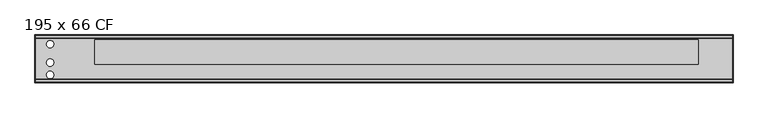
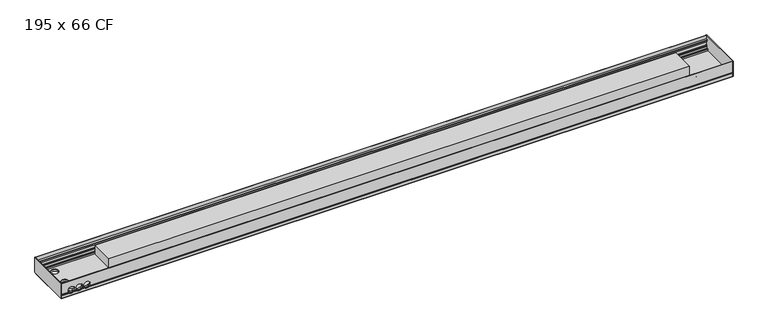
"""IFC4 building model written with IfcOpenShell, lengths in millimetres: proxy geometry, Mohlenhof_Внутрипольный конвектор_QSKM CF : 195 x 66 CF."""

from ifc_helpers import new_model, si_unit, point, frame, frame_2d, origin, place, context, project, spatial, polyline, circle_curve, ellipse_curve, trimmed, segment, composite_curve, outline, extrude, source, transform, mapped, element, save
from ifc_brep_helpers import plane_surface, revolved_surface, advanced_brep


def proxy_195_x_66_cf_03e56c4b(model_context):
    return source(origin(), model_context, "Body", "SolidModel", [
        advanced_brep(
        [(1423.0, -295.0, -48.5473602), (1423.0, -293.5, -49.2468216), (1423.0, -292.5, -49.2468216), (1423.0, -292.5, -46.0008038), (1423.0, -290.0, -46.0008038), (1423.0, -290.0, -56.5008038), (1423.0, -292.5, -56.5008038), (1423.0, -292.5, -53.2468216), (1423.0, -293.5, -53.2468216), (1423.0, -295.0, -53.9462831), (1423.0, -295.0, -66.5), (1423.0, -291.0, -66.5), (1423.0, -291.0, -65.2), (1423.0, -293.0, -65.2), (1423.0, -293.0, -62.5), (1423.0, -282.0, -62.5), (1423.0, -282.0, -54.9172677), (1423.0, -283.4172677, -53.5), (1423.0, -287.0, -53.5), (1423.0, -287.0, -45.91), (1423.0, -289.0, -43.91), (1423.0, -289.0, -39.5), (1423.0, -290.0, -39.5), (1423.0, -290.0, -43.5), (1423.0, -292.4956439, -43.5), (1423.0, -292.4956439, -23.0), (1423.0, -290.0, -23.0), (1423.0, -290.0, -27.0), (1423.0, -289.0, -27.0), (1423.0, -289.0, -17.0), (1423.0, -283.3956439, -17.0), (1423.0, -283.3956439, -15.0), (1423.0, -293.4, -15.0), (1423.0, -293.4, 0.0), (1423.0, -295.0, 0.0), (-1423.0, -295.0, -48.5473602), (-1423.0, -295.0, 0.0), (-1423.0, -293.4, 0.0), (-1423.0, -293.4, -15.0), (-1423.0, -283.3956439, -15.0), (-1423.0, -283.3956439, -17.0), (-1423.0, -289.0, -17.0), (-1423.0, -289.0, -27.0), (-1423.0, -290.0, -27.0), (-1423.0, -290.0, -23.0), (-1423.0, -292.4956439, -23.0), (-1423.0, -292.4956439, -43.5), (-1423.0, -290.0, -43.5), (-1423.0, -290.0, -39.5), (-1423.0, -289.0, -39.5), (-1423.0, -289.0, -43.91), (-1423.0, -287.0, -45.91), (-1423.0, -287.0, -53.5), (-1423.0, -283.4172677, -53.5), (-1423.0, -282.0, -54.9172677), (-1423.0, -282.0, -62.5), (-1423.0, -293.0, -62.5), (-1423.0, -293.0, -65.2), (-1423.0, -291.0, -65.2), (-1423.0, -291.0, -66.5), (-1423.0, -295.0, -66.5), (-1423.0, -295.0, -53.9462831), (-1423.0, -293.5, -53.2468216), (-1423.0, -292.5, -53.2468216), (-1423.0, -292.5, -56.5008038), (-1423.0, -290.0, -56.5008038), (-1423.0, -290.0, -46.0008038), (-1423.0, -292.5, -46.0008038), (-1423.0, -292.5, -49.2468216), (-1423.0, -293.5, -49.2468216), (-1303.7585985, -295.0, -48.5473602), (-1304.155283, -293.5, -49.2468216), (-1395.844717, -293.5, -49.2468216), (-1396.2414015, -295.0, -48.5473602), (-1363.2414015, -295.0, -48.5473602), (-1369.7585985, -295.0, -48.5473602), (-1370.155283, -293.5, -49.2468216), (-1362.844717, -293.5, -49.2468216), (-1330.2414015, -295.0, -48.5473602), (-1336.7585985, -295.0, -48.5473602), (-1337.155283, -293.5, -49.2468216), (-1329.844717, -293.5, -49.2468216), (-1304.155283, -292.5, -49.2468216), (-1395.844717, -292.5, -49.2468216), (-1370.155283, -292.5, -49.2468216), (-1362.844717, -292.5, -49.2468216), (-1337.155283, -292.5, -49.2468216), (-1329.844717, -292.5, -49.2468216), (-1302.6911648, -292.5, -46.0008038), (-1397.3088352, -292.5, -46.0008038), (-1368.6911648, -292.5, -46.0008038), (-1364.3088352, -292.5, -46.0008038), (-1335.6911648, -292.5, -46.0008038), (-1331.3088352, -292.5, -46.0008038), (-1302.6911648, -290.0, -46.0008038), (-1397.3088352, -290.0, -46.0008038), (-1368.6911648, -290.0, -46.0008038), (-1364.3088352, -290.0, -46.0008038), (-1335.6911648, -290.0, -46.0008038), (-1331.3088352, -290.0, -46.0008038), (-1392.328032, -292.5, -53.2468216), (-1373.671968, -292.5, -53.2468216), (-1359.328032, -292.5, -53.2468216), (-1340.671968, -292.5, -53.2468216), (-1326.328032, -292.5, -53.2468216), (-1307.671968, -292.5, -53.2468216), (-1307.671968, -293.5, -53.2468216), (-1392.328032, -293.5, -53.2468216), (-1373.671968, -293.5, -53.2468216), (-1359.328032, -293.5, -53.2468216), (-1340.671968, -293.5, -53.2468216), (-1326.328032, -293.5, -53.2468216), (-1308.6280208, -295.0, -53.9462831), (-1391.3719792, -295.0, -53.9462831), (-1374.6280208, -295.0, -53.9462831), (-1358.3719792, -295.0, -53.9462831), (-1341.6280208, -295.0, -53.9462831), (-1325.3719792, -295.0, -53.9462831), (-1389.7064841, -282.0, -54.9172677), (-1376.2935159, -282.0, -54.9172677), (-1356.7064841, -282.0, -54.9172677), (-1343.2935159, -282.0, -54.9172677), (-1323.7064841, -282.0, -54.9172677), (-1310.2935159, -282.0, -54.9172677), (-1308.0, -283.4172677, -53.5), (-1392.0, -283.4172677, -53.5), (-1374.0, -283.4172677, -53.5), (-1359.0, -283.4172677, -53.5), (-1341.0, -283.4172677, -53.5), (-1326.0, -283.4172677, -53.5), (-1308.0, -287.0, -53.5), (-1392.0, -287.0, -53.5), (-1374.0, -287.0, -53.5), (-1359.0, -287.0, -53.5), (-1341.0, -287.0, -53.5), (-1326.0, -287.0, -53.5), (-1302.6629187, -287.0, -45.91), (-1397.3370813, -287.0, -45.91), (-1368.6629187, -287.0, -45.91), (-1364.3370813, -287.0, -45.91), (-1335.6629187, -287.0, -45.91), (-1331.3370813, -287.0, -45.91), (-1302.1948691, -289.0, -43.91), (-1397.8051309, -289.0, -43.91), (-1368.1948691, -289.0, -43.91), (-1364.8051309, -289.0, -43.91), (-1335.1948691, -289.0, -43.91), (-1331.8051309, -289.0, -43.91), (-1302.0, -289.0, -41.5), (-1302.1339313, -289.0, -39.5), (-1397.8660687, -289.0, -39.5), (-1398.0, -289.0, -41.5), (-1368.0, -289.0, -41.5), (-1368.1339313, -289.0, -39.5), (-1364.8660687, -289.0, -39.5), (-1365.0, -289.0, -41.5), (-1335.0, -289.0, -41.5), (-1335.1339313, -289.0, -39.5), (-1331.8660687, -289.0, -39.5), (-1332.0, -289.0, -41.5), (-1302.1339313, -290.0, -39.5), (-1397.8660687, -290.0, -39.5), (-1368.1339313, -290.0, -39.5), (-1364.8660687, -290.0, -39.5), (-1335.1339313, -290.0, -39.5), (-1331.8660687, -290.0, -39.5), (-1302.0, -290.0, -41.5), (-1302.1339313, -290.0, -43.5), (-1397.8660687, -290.0, -43.5), (-1398.0, -290.0, -41.5), (-1368.0, -290.0, -41.5), (-1368.1339313, -290.0, -43.5), (-1364.8660687, -290.0, -43.5), (-1365.0, -290.0, -41.5), (-1335.0, -290.0, -41.5), (-1335.1339313, -290.0, -43.5), (-1331.8660687, -290.0, -43.5), (-1332.0, -290.0, -41.5), (-1302.1339313, -292.4956439, -43.5), (-1397.8660687, -292.4956439, -43.5), (-1368.1339313, -292.4956439, -43.5), (-1364.8660687, -292.4956439, -43.5), (-1335.1339313, -292.4956439, -43.5), (-1331.8660687, -292.4956439, -43.5), (-1302.0, -292.4956439, -41.5), (-1332.0, -292.4956439, -41.5), (-1335.0, -292.4956439, -41.5), (-1365.0, -292.4956439, -41.5), (-1368.0, -292.4956439, -41.5), (-1398.0, -292.4956439, -41.5), (-1386.8405729, -290.0, -27.0), (-1379.1594271, -290.0, -27.0), (-1353.8405729, -290.0, -27.0), (-1346.1594271, -290.0, -27.0), (-1320.8405729, -290.0, -27.0), (-1313.1594271, -290.0, -27.0), (-1313.1594271, -289.0, -27.0), (-1386.8405729, -289.0, -27.0), (-1379.1594271, -289.0, -27.0), (-1353.8405729, -289.0, -27.0), (-1346.1594271, -289.0, -27.0), (-1320.8405729, -289.0, -27.0), (-1398.0, -295.0, -41.5), (-1368.0, -295.0, -41.5), (-1365.0, -295.0, -41.5), (-1335.0, -295.0, -41.5), (-1332.0, -295.0, -41.5), (-1302.0, -295.0, -41.5)],
        [
            (0, 1),
            (1, 2),
            (2, 3),
            (3, 4),
            (4, 5),
            (5, 6),
            (6, 7),
            (7, 8),
            (8, 9),
            (9, 10),
            (10, 11),
            (11, 12),
            (12, 13),
            (13, 14),
            (14, 15),
            (15, 16),
            (16, 17),
            (17, 18),
            (18, 19),
            (19, 20),
            (20, 21),
            (21, 22),
            (22, 23),
            (23, 24),
            (24, 25),
            (25, 26),
            (26, 27),
            (27, 28),
            (28, 29),
            (29, 30),
            (30, 31),
            (31, 32),
            (32, 33),
            (33, 34),
            (34, 0),
            (35, 36),
            (36, 37),
            (37, 38),
            (38, 39),
            (39, 40),
            (40, 41),
            (41, 42),
            (42, 43),
            (43, 44),
            (44, 45),
            (45, 46),
            (46, 47),
            (47, 48),
            (48, 49),
            (49, 50),
            (50, 51),
            (51, 52),
            (52, 53),
            (53, 54),
            (54, 55),
            (55, 56),
            (56, 57),
            (57, 58),
            (58, 59),
            (59, 60),
            (60, 61),
            (61, 62),
            (62, 63),
            (63, 64),
            (64, 65),
            (65, 66),
            (66, 67),
            (67, 68),
            (68, 69),
            (69, 35),
            (0, 70),
            (70, 71, ellipse_curve(frame((-1317.0, -310.1131126, -41.5), z_axis=(0.0, 0.42261826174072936, 0.9063077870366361), x_axis=(0.0, -0.906307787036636, 0.4226182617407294)), 35.4930237, 15.0)),
            (71, 1),
            (69, 72),
            (72, 73, ellipse_curve(frame((-1383.0, -310.1131126, -41.5), z_axis=(0.0, 0.42261826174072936, 0.9063077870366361), x_axis=(0.0, -0.906307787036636, 0.4226182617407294)), 35.4930237, 15.0)),
            (73, 35),
            (74, 75),
            (75, 76, ellipse_curve(frame((-1383.0, -310.1131126, -41.5), z_axis=(0.0, 0.42261826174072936, 0.9063077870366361), x_axis=(0.0, -0.906307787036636, 0.4226182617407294)), 35.4930237, 15.0)),
            (76, 77),
            (77, 74, ellipse_curve(frame((-1350.0, -310.1131126, -41.5), z_axis=(0.0, 0.42261826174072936, 0.9063077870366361), x_axis=(0.0, -0.906307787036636, 0.4226182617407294)), 35.4930237, 15.0)),
            (78, 79),
            (79, 80, ellipse_curve(frame((-1350.0, -310.1131126, -41.5), z_axis=(0.0, 0.42261826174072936, 0.9063077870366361), x_axis=(0.0, -0.906307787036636, 0.4226182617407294)), 35.4930237, 15.0)),
            (80, 81),
            (81, 78, ellipse_curve(frame((-1317.0, -310.1131126, -41.5), z_axis=(0.0, 0.42261826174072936, 0.9063077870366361), x_axis=(0.0, -0.906307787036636, 0.4226182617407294)), 35.4930237, 15.0)),
            (71, 82),
            (82, 2),
            (68, 83),
            (83, 72),
            (76, 84),
            (84, 85),
            (85, 77),
            (80, 86),
            (86, 87),
            (87, 81),
            (82, 88, circle_curve(frame((-1317.0, -292.5, -41.5), z_axis=(0.0, -1.0, 0.0), x_axis=(1.0, 0.0, 0.0)), 15.0)),
            (88, 3),
            (67, 89),
            (89, 83, circle_curve(frame((-1383.0, -292.5, -41.5), z_axis=(0.0, -1.0, 0.0), x_axis=(1.0, 0.0, 0.0)), 15.0)),
            (84, 90, circle_curve(frame((-1383.0, -292.5, -41.5), z_axis=(0.0, -1.0, 0.0), x_axis=(1.0, 0.0, 0.0)), 15.0)),
            (90, 91),
            (91, 85, circle_curve(frame((-1350.0, -292.5, -41.5), z_axis=(0.0, -1.0, 0.0), x_axis=(1.0, 0.0, 0.0)), 15.0)),
            (86, 92, circle_curve(frame((-1350.0, -292.5, -41.5), z_axis=(0.0, -1.0, 0.0), x_axis=(1.0, 0.0, 0.0)), 15.0)),
            (92, 93),
            (93, 87, circle_curve(frame((-1317.0, -292.5, -41.5), z_axis=(0.0, -1.0, 0.0), x_axis=(1.0, 0.0, 0.0)), 15.0)),
            (88, 94),
            (94, 4),
            (66, 95),
            (95, 89),
            (90, 96),
            (96, 97),
            (97, 91),
            (92, 98),
            (98, 99),
            (99, 93),
            (94, 99, circle_curve(frame((-1317.0, -290.0, -41.5), z_axis=(0.0, 1.0, 0.0), x_axis=(1.0, 0.0, 0.0)), 15.0)),
            (98, 97, circle_curve(frame((-1350.0, -290.0, -41.5), z_axis=(0.0, 1.0, 0.0), x_axis=(1.0, 0.0, 0.0)), 15.0)),
            (96, 95, circle_curve(frame((-1383.0, -290.0, -41.5), z_axis=(0.0, 1.0, 0.0), x_axis=(1.0, 0.0, 0.0)), 15.0)),
            (65, 5),
            (64, 6),
            (63, 100),
            (100, 101, circle_curve(frame((-1383.0, -292.5, -41.5), z_axis=(0.0, -1.0, 0.0), x_axis=(1.0, 0.0, 0.0)), 15.0)),
            (101, 102),
            (102, 103, circle_curve(frame((-1350.0, -292.5, -41.5), z_axis=(0.0, -1.0, 0.0), x_axis=(1.0, 0.0, 0.0)), 15.0)),
            (103, 104),
            (104, 105, circle_curve(frame((-1317.0, -292.5, -41.5), z_axis=(0.0, -1.0, 0.0), x_axis=(1.0, 0.0, 0.0)), 15.0)),
            (105, 7),
            (105, 106),
            (106, 8),
            (62, 107),
            (107, 100),
            (101, 108),
            (108, 109),
            (109, 102),
            (103, 110),
            (110, 111),
            (111, 104),
            (106, 112, ellipse_curve(frame((-1317.0, -268.3088597, -41.5), z_axis=(0.0, 0.4226182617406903, -0.9063077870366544), x_axis=(0.0, -0.9063077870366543, -0.42261826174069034)), 35.4930237, 15.0)),
            (112, 9),
            (61, 113),
            (113, 107, ellipse_curve(frame((-1383.0, -268.3088597, -41.5), z_axis=(0.0, 0.4226182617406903, -0.9063077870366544), x_axis=(0.0, -0.9063077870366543, -0.42261826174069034)), 35.4930237, 15.0)),
            (108, 114, ellipse_curve(frame((-1383.0, -268.3088597, -41.5), z_axis=(0.0, 0.4226182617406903, -0.9063077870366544), x_axis=(0.0, -0.9063077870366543, -0.42261826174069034)), 35.4930237, 15.0)),
            (114, 115),
            (115, 109, ellipse_curve(frame((-1350.0, -268.3088597, -41.5), z_axis=(0.0, 0.4226182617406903, -0.9063077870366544), x_axis=(0.0, -0.9063077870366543, -0.42261826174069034)), 35.4930237, 15.0)),
            (110, 116, ellipse_curve(frame((-1350.0, -268.3088597, -41.5), z_axis=(0.0, 0.4226182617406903, -0.9063077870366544), x_axis=(0.0, -0.9063077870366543, -0.42261826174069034)), 35.4930237, 15.0)),
            (116, 117),
            (117, 111, ellipse_curve(frame((-1317.0, -268.3088597, -41.5), z_axis=(0.0, 0.4226182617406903, -0.9063077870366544), x_axis=(0.0, -0.9063077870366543, -0.42261826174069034)), 35.4930237, 15.0)),
            (112, 117, circle_curve(frame((-1317.0, -295.0, -41.5), z_axis=(0.0, 1.0, 0.0), x_axis=(1.0, 0.0, 0.0)), 15.0)),
            (116, 115, circle_curve(frame((-1350.0, -295.0, -41.5), z_axis=(0.0, 1.0, 0.0), x_axis=(1.0, 0.0, 0.0)), 15.0)),
            (114, 113, circle_curve(frame((-1383.0, -295.0, -41.5), z_axis=(0.0, 1.0, 0.0), x_axis=(1.0, 0.0, 0.0)), 15.0)),
            (60, 10),
            (59, 11),
            (58, 12),
            (57, 13),
            (56, 14),
            (55, 15),
            (54, 118),
            (118, 119, circle_curve(frame((-1383.0, -282.0, -41.5), z_axis=(0.0, -1.0, 0.0), x_axis=(1.0, 0.0, 0.0)), 15.0)),
            (119, 120),
            (120, 121, circle_curve(frame((-1350.0, -282.0, -41.5), z_axis=(0.0, -1.0, 0.0), x_axis=(1.0, 0.0, 0.0)), 15.0)),
            (121, 122),
            (122, 123, circle_curve(frame((-1317.0, -282.0, -41.5), z_axis=(0.0, -1.0, 0.0), x_axis=(1.0, 0.0, 0.0)), 15.0)),
            (123, 16),
            (123, 124, ellipse_curve(frame((-1317.0, -295.4172677, -41.5), z_axis=(0.0, -0.7071067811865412, -0.7071067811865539), x_axis=(0.0, -0.7071067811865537, 0.7071067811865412)), 21.2132034, 15.0)),
            (124, 17),
            (53, 125),
            (125, 118, ellipse_curve(frame((-1383.0, -295.4172677, -41.5), z_axis=(0.0, -0.7071067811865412, -0.7071067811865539), x_axis=(0.0, -0.7071067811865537, 0.7071067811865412)), 21.2132034, 15.0)),
            (119, 126, ellipse_curve(frame((-1383.0, -295.4172677, -41.5), z_axis=(0.0, -0.7071067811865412, -0.7071067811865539), x_axis=(0.0, -0.7071067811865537, 0.7071067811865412)), 21.2132034, 15.0)),
            (126, 127),
            (127, 120, ellipse_curve(frame((-1350.0, -295.4172677, -41.5), z_axis=(0.0, -0.7071067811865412, -0.7071067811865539), x_axis=(0.0, -0.7071067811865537, 0.7071067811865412)), 21.2132034, 15.0)),
            (121, 128, ellipse_curve(frame((-1350.0, -295.4172677, -41.5), z_axis=(0.0, -0.7071067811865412, -0.7071067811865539), x_axis=(0.0, -0.7071067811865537, 0.7071067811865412)), 21.2132034, 15.0)),
            (128, 129),
            (129, 122, ellipse_curve(frame((-1317.0, -295.4172677, -41.5), z_axis=(0.0, -0.7071067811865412, -0.7071067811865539), x_axis=(0.0, -0.7071067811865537, 0.7071067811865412)), 21.2132034, 15.0)),
            (124, 130),
            (130, 18),
            (52, 131),
            (131, 125),
            (126, 132),
            (132, 133),
            (133, 127),
            (128, 134),
            (134, 135),
            (135, 129),
            (130, 136, circle_curve(frame((-1317.0, -287.0, -41.5), z_axis=(0.0, -1.0, 0.0), x_axis=(1.0, 0.0, 0.0)), 15.0)),
            (136, 19),
            (51, 137),
            (137, 131, circle_curve(frame((-1383.0, -287.0, -41.5), z_axis=(0.0, -1.0, 0.0), x_axis=(1.0, 0.0, 0.0)), 15.0)),
            (132, 138, circle_curve(frame((-1383.0, -287.0, -41.5), z_axis=(0.0, -1.0, 0.0), x_axis=(1.0, 0.0, 0.0)), 15.0)),
            (138, 139),
            (139, 133, circle_curve(frame((-1350.0, -287.0, -41.5), z_axis=(0.0, -1.0, 0.0), x_axis=(1.0, 0.0, 0.0)), 15.0)),
            (134, 140, circle_curve(frame((-1350.0, -287.0, -41.5), z_axis=(0.0, -1.0, 0.0), x_axis=(1.0, 0.0, 0.0)), 15.0)),
            (140, 141),
            (141, 135, circle_curve(frame((-1317.0, -287.0, -41.5), z_axis=(0.0, -1.0, 0.0), x_axis=(1.0, 0.0, 0.0)), 15.0)),
            (136, 142, ellipse_curve(frame((-1317.0, -291.41, -41.5), z_axis=(0.0, -0.7071067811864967, -0.7071067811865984), x_axis=(0.0, -0.7071067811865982, 0.7071067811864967)), 21.2132034, 15.0)),
            (142, 20),
            (50, 143),
            (143, 137, ellipse_curve(frame((-1383.0, -291.41, -41.5), z_axis=(0.0, -0.7071067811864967, -0.7071067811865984), x_axis=(0.0, -0.7071067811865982, 0.7071067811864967)), 21.2132034, 15.0)),
            (138, 144, ellipse_curve(frame((-1383.0, -291.41, -41.5), z_axis=(0.0, -0.7071067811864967, -0.7071067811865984), x_axis=(0.0, -0.7071067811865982, 0.7071067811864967)), 21.2132034, 15.0)),
            (144, 145),
            (145, 139, ellipse_curve(frame((-1350.0, -291.41, -41.5), z_axis=(0.0, -0.7071067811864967, -0.7071067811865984), x_axis=(0.0, -0.7071067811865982, 0.7071067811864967)), 21.2132034, 15.0)),
            (140, 146, ellipse_curve(frame((-1350.0, -291.41, -41.5), z_axis=(0.0, -0.7071067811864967, -0.7071067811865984), x_axis=(0.0, -0.7071067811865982, 0.7071067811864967)), 21.2132034, 15.0)),
            (146, 147),
            (147, 141, ellipse_curve(frame((-1317.0, -291.41, -41.5), z_axis=(0.0, -0.7071067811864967, -0.7071067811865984), x_axis=(0.0, -0.7071067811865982, 0.7071067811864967)), 21.2132034, 15.0)),
            (142, 148, circle_curve(frame((-1317.0, -289.0, -41.5), z_axis=(0.0, -1.0, 0.0), x_axis=(1.0, 0.0, 0.0)), 15.0)),
            (148, 149, circle_curve(frame((-1317.0, -289.0, -41.5), z_axis=(0.0, -1.0, 0.0), x_axis=(1.0, 0.0, 0.0)), 15.0)),
            (149, 21),
            (49, 150),
            (150, 151, circle_curve(frame((-1383.0, -289.0, -41.5), z_axis=(0.0, -1.0, 0.0), x_axis=(1.0, 0.0, 0.0)), 15.0)),
            (151, 143, circle_curve(frame((-1383.0, -289.0, -41.5), z_axis=(0.0, -1.0, 0.0), x_axis=(1.0, 0.0, 0.0)), 15.0)),
            (144, 152, circle_curve(frame((-1383.0, -289.0, -41.5), z_axis=(0.0, -1.0, 0.0), x_axis=(1.0, 0.0, 0.0)), 15.0)),
            (152, 153, circle_curve(frame((-1383.0, -289.0, -41.5), z_axis=(0.0, -1.0, 0.0), x_axis=(1.0, 0.0, 0.0)), 15.0)),
            (153, 154),
            (154, 155, circle_curve(frame((-1350.0, -289.0, -41.5), z_axis=(0.0, -1.0, 0.0), x_axis=(1.0, 0.0, 0.0)), 15.0)),
            (155, 145, circle_curve(frame((-1350.0, -289.0, -41.5), z_axis=(0.0, -1.0, 0.0), x_axis=(1.0, 0.0, 0.0)), 15.0)),
            (146, 156, circle_curve(frame((-1350.0, -289.0, -41.5), z_axis=(0.0, -1.0, 0.0), x_axis=(1.0, 0.0, 0.0)), 15.0)),
            (156, 157, circle_curve(frame((-1350.0, -289.0, -41.5), z_axis=(0.0, -1.0, 0.0), x_axis=(1.0, 0.0, 0.0)), 15.0)),
            (157, 158),
            (158, 159, circle_curve(frame((-1317.0, -289.0, -41.5), z_axis=(0.0, -1.0, 0.0), x_axis=(1.0, 0.0, 0.0)), 15.0)),
            (159, 147, circle_curve(frame((-1317.0, -289.0, -41.5), z_axis=(0.0, -1.0, 0.0), x_axis=(1.0, 0.0, 0.0)), 15.0)),
            (149, 160),
            (160, 22),
            (48, 161),
            (161, 150),
            (153, 162),
            (162, 163),
            (163, 154),
            (157, 164),
            (164, 165),
            (165, 158),
            (160, 166, circle_curve(frame((-1317.0, -290.0, -41.5), z_axis=(0.0, 1.0, 0.0), x_axis=(1.0, 0.0, 0.0)), 15.0)),
            (166, 167, circle_curve(frame((-1317.0, -290.0, -41.5), z_axis=(0.0, 1.0, 0.0), x_axis=(1.0, 0.0, 0.0)), 15.0)),
            (167, 23),
            (47, 168),
            (168, 169, circle_curve(frame((-1383.0, -290.0, -41.5), z_axis=(0.0, 1.0, 0.0), x_axis=(1.0, 0.0, 0.0)), 15.0)),
            (169, 161, circle_curve(frame((-1383.0, -290.0, -41.5), z_axis=(0.0, 1.0, 0.0), x_axis=(1.0, 0.0, 0.0)), 15.0)),
            (162, 170, circle_curve(frame((-1383.0, -290.0, -41.5), z_axis=(0.0, 1.0, 0.0), x_axis=(1.0, 0.0, 0.0)), 15.0)),
            (170, 171, circle_curve(frame((-1383.0, -290.0, -41.5), z_axis=(0.0, 1.0, 0.0), x_axis=(1.0, 0.0, 0.0)), 15.0)),
            (171, 172),
            (172, 173, circle_curve(frame((-1350.0, -290.0, -41.5), z_axis=(0.0, 1.0, 0.0), x_axis=(1.0, 0.0, 0.0)), 15.0)),
            (173, 163, circle_curve(frame((-1350.0, -290.0, -41.5), z_axis=(0.0, 1.0, 0.0), x_axis=(1.0, 0.0, 0.0)), 15.0)),
            (164, 174, circle_curve(frame((-1350.0, -290.0, -41.5), z_axis=(0.0, 1.0, 0.0), x_axis=(1.0, 0.0, 0.0)), 15.0)),
            (174, 175, circle_curve(frame((-1350.0, -290.0, -41.5), z_axis=(0.0, 1.0, 0.0), x_axis=(1.0, 0.0, 0.0)), 15.0)),
            (175, 176),
            (176, 177, circle_curve(frame((-1317.0, -290.0, -41.5), z_axis=(0.0, 1.0, 0.0), x_axis=(1.0, 0.0, 0.0)), 15.0)),
            (177, 165, circle_curve(frame((-1317.0, -290.0, -41.5), z_axis=(0.0, 1.0, 0.0), x_axis=(1.0, 0.0, 0.0)), 15.0)),
            (167, 178),
            (178, 24),
            (46, 179),
            (179, 168),
            (171, 180),
            (180, 181),
            (181, 172),
            (175, 182),
            (182, 183),
            (183, 176),
            (178, 184, circle_curve(frame((-1317.0, -292.4956439, -41.5), z_axis=(0.0, -1.0, 0.0), x_axis=(1.0, 0.0, 0.0)), 15.0)),
            (184, 185, circle_curve(frame((-1317.0, -292.4956439, -41.5), z_axis=(0.0, -1.0, 0.0), x_axis=(1.0, 0.0, 0.0)), 15.0)),
            (185, 183, circle_curve(frame((-1317.0, -292.4956439, -41.5), z_axis=(0.0, -1.0, 0.0), x_axis=(1.0, 0.0, 0.0)), 15.0)),
            (182, 186, circle_curve(frame((-1350.0, -292.4956439, -41.5), z_axis=(0.0, -1.0, 0.0), x_axis=(1.0, 0.0, 0.0)), 15.0)),
            (186, 187, circle_curve(frame((-1350.0, -292.4956439, -41.5), z_axis=(0.0, -1.0, 0.0), x_axis=(1.0, 0.0, 0.0)), 15.0)),
            (187, 181, circle_curve(frame((-1350.0, -292.4956439, -41.5), z_axis=(0.0, -1.0, 0.0), x_axis=(1.0, 0.0, 0.0)), 15.0)),
            (180, 188, circle_curve(frame((-1383.0, -292.4956439, -41.5), z_axis=(0.0, -1.0, 0.0), x_axis=(1.0, 0.0, 0.0)), 15.0)),
            (188, 189, circle_curve(frame((-1383.0, -292.4956439, -41.5), z_axis=(0.0, -1.0, 0.0), x_axis=(1.0, 0.0, 0.0)), 15.0)),
            (189, 179, circle_curve(frame((-1383.0, -292.4956439, -41.5), z_axis=(0.0, -1.0, 0.0), x_axis=(1.0, 0.0, 0.0)), 15.0)),
            (45, 25),
            (44, 26),
            (43, 190),
            (190, 191, circle_curve(frame((-1383.0, -290.0, -41.5), z_axis=(0.0, 1.0, 0.0), x_axis=(1.0, 0.0, 0.0)), 15.0)),
            (191, 192),
            (192, 193, circle_curve(frame((-1350.0, -290.0, -41.5), z_axis=(0.0, 1.0, 0.0), x_axis=(1.0, 0.0, 0.0)), 15.0)),
            (193, 194),
            (194, 195, circle_curve(frame((-1317.0, -290.0, -41.5), z_axis=(0.0, 1.0, 0.0), x_axis=(1.0, 0.0, 0.0)), 15.0)),
            (195, 27),
            (195, 196),
            (196, 28),
            (42, 197),
            (197, 190),
            (191, 198),
            (198, 199),
            (199, 192),
            (193, 200),
            (200, 201),
            (201, 194),
            (196, 201, circle_curve(frame((-1317.0, -289.0, -41.5), z_axis=(0.0, -1.0, 0.0), x_axis=(1.0, 0.0, 0.0)), 15.0)),
            (200, 199, circle_curve(frame((-1350.0, -289.0, -41.5), z_axis=(0.0, -1.0, 0.0), x_axis=(1.0, 0.0, 0.0)), 15.0)),
            (198, 197, circle_curve(frame((-1383.0, -289.0, -41.5), z_axis=(0.0, -1.0, 0.0), x_axis=(1.0, 0.0, 0.0)), 15.0)),
            (41, 29),
            (40, 30),
            (39, 31),
            (38, 32),
            (37, 33),
            (36, 34),
            (73, 202, circle_curve(frame((-1383.0, -295.0, -41.5), z_axis=(0.0, 1.0, 0.0), x_axis=(1.0, 0.0, 0.0)), 15.0)),
            (202, 203, circle_curve(frame((-1383.0, -295.0, -41.5), z_axis=(0.0, 1.0, 0.0), x_axis=(1.0, 0.0, 0.0)), 15.0)),
            (203, 75, circle_curve(frame((-1383.0, -295.0, -41.5), z_axis=(0.0, 1.0, 0.0), x_axis=(1.0, 0.0, 0.0)), 15.0)),
            (74, 204, circle_curve(frame((-1350.0, -295.0, -41.5), z_axis=(0.0, 1.0, 0.0), x_axis=(1.0, 0.0, 0.0)), 15.0)),
            (204, 205, circle_curve(frame((-1350.0, -295.0, -41.5), z_axis=(0.0, 1.0, 0.0), x_axis=(1.0, 0.0, 0.0)), 15.0)),
            (205, 79, circle_curve(frame((-1350.0, -295.0, -41.5), z_axis=(0.0, 1.0, 0.0), x_axis=(1.0, 0.0, 0.0)), 15.0)),
            (78, 206, circle_curve(frame((-1317.0, -295.0, -41.5), z_axis=(0.0, 1.0, 0.0), x_axis=(1.0, 0.0, 0.0)), 15.0)),
            (206, 207, circle_curve(frame((-1317.0, -295.0, -41.5), z_axis=(0.0, 1.0, 0.0), x_axis=(1.0, 0.0, 0.0)), 15.0)),
            (207, 70, circle_curve(frame((-1317.0, -295.0, -41.5), z_axis=(0.0, 1.0, 0.0), x_axis=(1.0, 0.0, 0.0)), 15.0)),
            (151, 169),
            (189, 202),
            (203, 188),
            (170, 152),
            (155, 173),
            (187, 204),
            (205, 186),
            (174, 156),
            (159, 177),
            (185, 206),
            (207, 184),
            (166, 148),
        ],
        [
            plane_surface(frame((1423.0, -293.0, -62.5), z_axis=(1.0, 0.0, 0.0), x_axis=(0.0, 0.0, 1.0))),
            plane_surface(frame((-1423.0, -293.0, -62.5), z_axis=(-1.0, 0.0, 0.0), x_axis=(0.0, 0.0, 1.0))),
            plane_surface(frame((1423.0, -295.0, -48.5473602), z_axis=(0.0, -0.42261826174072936, -0.9063077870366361), x_axis=(-1.0, 0.0, 0.0))),
            plane_surface(frame((1423.0, -293.5, -49.2468216), z_axis=(0.0, 0.0, -1.0), x_axis=(-1.0, 0.0, 0.0))),
            plane_surface(frame((1423.0, -292.5, -49.2468216), z_axis=(0.0, 1.0, 0.0), x_axis=(-1.0, 0.0, 0.0))),
            plane_surface(frame((1423.0, -292.5, -46.0008038), z_axis=(0.0, 0.0, -1.0), x_axis=(-1.0, 0.0, 0.0))),
            plane_surface(frame((1423.0, -290.0, -46.0008038), z_axis=(0.0, -1.0, 0.0), x_axis=(-1.0, 0.0, 0.0))),
            plane_surface(frame((1423.0, -290.0, -56.5008038), z_axis=(0.0, 0.0, 1.0), x_axis=(-1.0, 0.0, 0.0))),
            plane_surface(frame((1423.0, -292.5, -56.5008038), z_axis=(0.0, 1.0, 0.0), x_axis=(-1.0, 0.0, 0.0))),
            plane_surface(frame((1423.0, -292.5, -53.2468216), z_axis=(0.0, 0.0, 1.0), x_axis=(-1.0, 0.0, 0.0))),
            plane_surface(frame((1423.0, -293.5, -53.2468216), z_axis=(0.0, -0.4226182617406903, 0.9063077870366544), x_axis=(-1.0, 0.0, 0.0))),
            plane_surface(frame((1423.0, -295.0, -53.9462831), z_axis=(0.0, -1.0, 0.0), x_axis=(-1.0, 0.0, 0.0))),
            plane_surface(frame((1423.0, -295.0, -66.5), z_axis=(0.0, 0.0, -1.0), x_axis=(-1.0, 0.0, 0.0))),
            plane_surface(frame((1423.0, -291.0, -66.5), z_axis=(0.0, 1.0, 0.0), x_axis=(-1.0, 0.0, 0.0))),
            plane_surface(frame((1423.0, -291.0, -65.2), z_axis=(0.0, 0.0, 1.0), x_axis=(-1.0, 0.0, 0.0))),
            plane_surface(frame((1423.0, -293.0, -65.2), z_axis=(0.0, 1.0, 0.0), x_axis=(-1.0, 0.0, 0.0))),
            plane_surface(frame((1423.0, -293.0, -62.5), z_axis=(0.0, 0.0, -1.0), x_axis=(-1.0, 0.0, 0.0))),
            plane_surface(frame((1423.0, -282.0, -62.5), z_axis=(0.0, 1.0, 0.0), x_axis=(-1.0, 0.0, 0.0))),
            plane_surface(frame((1423.0, -282.0, -54.9172677), z_axis=(0.0, 0.7071067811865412, 0.7071067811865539), x_axis=(-1.0, 0.0, 0.0))),
            plane_surface(frame((1423.0, -283.4172677, -53.5), z_axis=(0.0, 0.0, 1.0), x_axis=(-1.0, 0.0, 0.0))),
            plane_surface(frame((1423.0, -287.0, -53.5), z_axis=(0.0, 1.0, 0.0), x_axis=(-1.0, 0.0, 0.0))),
            plane_surface(frame((1423.0, -287.0, -45.91), z_axis=(0.0, 0.7071067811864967, 0.7071067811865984), x_axis=(-1.0, 0.0, 0.0))),
            plane_surface(frame((1423.0, -289.0, -43.91), z_axis=(0.0, 1.0, 0.0), x_axis=(-1.0, 0.0, 0.0))),
            plane_surface(frame((1423.0, -289.0, -39.5), z_axis=(0.0, 0.0, 1.0), x_axis=(-1.0, 0.0, 0.0))),
            plane_surface(frame((1423.0, -290.0, -39.5), z_axis=(0.0, -1.0, 0.0), x_axis=(-1.0, 0.0, 0.0))),
            plane_surface(frame((1423.0, -290.0, -43.5), z_axis=(0.0, 0.0, 1.0), x_axis=(-1.0, 0.0, 0.0))),
            plane_surface(frame((1423.0, -292.4956439, -43.5), z_axis=(0.0, 1.0, 0.0), x_axis=(-1.0, 0.0, 0.0))),
            plane_surface(frame((1423.0, -292.4956439, -23.0), z_axis=(0.0, 0.0, -1.0), x_axis=(-1.0, 0.0, 0.0))),
            plane_surface(frame((1423.0, -290.0, -23.0), z_axis=(0.0, -1.0, 0.0), x_axis=(-1.0, 0.0, 0.0))),
            plane_surface(frame((1423.0, -290.0, -27.0), z_axis=(0.0, 0.0, -1.0), x_axis=(-1.0, 0.0, 0.0))),
            plane_surface(frame((1423.0, -289.0, -27.0), z_axis=(0.0, 1.0, 0.0), x_axis=(-1.0, 0.0, 0.0))),
            plane_surface(frame((1423.0, -289.0, -17.0), z_axis=(0.0, 0.0, -1.0), x_axis=(-1.0, 0.0, 0.0))),
            plane_surface(frame((1423.0, -283.3956439, -17.0), z_axis=(0.0, 1.0, 0.0), x_axis=(-1.0, 0.0, 0.0))),
            plane_surface(frame((1423.0, -283.3956439, -15.0), z_axis=(0.0, 0.0, 1.0), x_axis=(-1.0, 0.0, 0.0))),
            plane_surface(frame((1423.0, -293.4, -15.0), z_axis=(0.0, 1.0, 0.0), x_axis=(-1.0, 0.0, 0.0))),
            plane_surface(frame((1423.0, -293.4, 0.0), z_axis=(0.0, 0.0, 1.0), x_axis=(-1.0, 0.0, 0.0))),
            plane_surface(frame((1423.0, -295.0, 0.0), z_axis=(0.0, -1.0, 0.0), x_axis=(-1.0, 0.0, 0.0))),
            revolved_surface(polyline([(-1368.0, -300.47646346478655, -41.5), (-1368.0, -236.1412559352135, -41.5)]), (-1383.0, -263.0, -41.5), (0.0, -1.0, 0.0)),
            revolved_surface(polyline([(-1368.0, -342.2807163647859, -41.5), (-1368.0, -276.41000002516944, -41.5)]), (-1383.0, -263.0, -41.5), (0.0, -1.0, 0.0)),
            revolved_surface(polyline([(-1368.0, -290.0, -41.5), (-1368.0, -289.0, -41.5)]), (-1383.0, -263.0, -41.5), (0.0, -1.0, 0.0)),
            revolved_surface(polyline([(-1368.0, -295.0, -41.5), (-1368.0, -292.4956439, -41.5)]), (-1383.0, -263.0, -41.5), (0.0, -1.0, 0.0)),
            revolved_surface(polyline([(-1335.0, -300.47646346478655, -41.5), (-1335.0, -236.1412559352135, -41.5)]), (-1350.0, 0.0, -41.5), (0.0, -1.0, 0.0)),
            revolved_surface(polyline([(-1335.0, -342.2807163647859, -41.5), (-1335.0, -276.41000002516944, -41.5)]), (-1350.0, 0.0, -41.5), (0.0, -1.0, 0.0)),
            revolved_surface(polyline([(-1335.0, -290.0, -41.5), (-1335.0, -289.0, -41.5)]), (-1350.0, 0.0, -41.5), (0.0, -1.0, 0.0)),
            revolved_surface(polyline([(-1335.0, -295.0, -41.5), (-1335.0, -292.4956439, -41.5)]), (-1350.0, 0.0, -41.5), (0.0, -1.0, 0.0)),
            revolved_surface(polyline([(-1302.0, -300.47646346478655, -41.5), (-1302.0, -236.1412559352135, -41.5)]), (-1317.0, 0.0, -41.5), (0.0, -1.0, 0.0)),
            revolved_surface(polyline([(-1302.0, -342.2807163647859, -41.5), (-1302.0, -276.41000002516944, -41.5)]), (-1317.0, 0.0, -41.5), (0.0, -1.0, 0.0)),
            revolved_surface(polyline([(-1302.0, -290.0, -41.5), (-1302.0, -289.0, -41.5)]), (-1317.0, 0.0, -41.5), (0.0, -1.0, 0.0)),
            revolved_surface(polyline([(-1302.0, -295.0, -41.5), (-1302.0, -292.4956439, -41.5)]), (-1317.0, 0.0, -41.5), (0.0, -1.0, 0.0)),
        ],
        [
            (0, [[1, 2, 3, 4, 5, 6, 7, 8, 9, 10, 11, 12, 13, 14, 15, 16, 17, 18, 19, 20, 21, 22, 23, 24, 25, 26, 27, 28, 29, 30, 31, 32, 33, 34, 35]]),
            (1, [[36, 37, 38, 39, 40, 41, 42, 43, 44, 45, 46, 47, 48, 49, 50, 51, 52, 53, 54, 55, 56, 57, 58, 59, 60, 61, 62, 63, 64, 65, 66, 67, 68, 69, 70]]),
            (2, [[-1, 71, 72, 73]]),
            (2, [[-70, 74, 75, 76]]),
            (2, [[77, 78, 79, 80]]),
            (2, [[81, 82, 83, 84]]),
            (3, [[-2, -73, 85, 86]]),
            (3, [[-69, 87, 88, -74]]),
            (3, [[-79, 89, 90, 91]]),
            (3, [[-83, 92, 93, 94]]),
            (4, [[-3, -86, 95, 96]]),
            (4, [[-68, 97, 98, -87]]),
            (4, [[-90, 99, 100, 101]]),
            (4, [[-93, 102, 103, 104]]),
            (5, [[-4, -96, 105, 106]]),
            (5, [[-67, 107, 108, -97]]),
            (5, [[-100, 109, 110, 111]]),
            (5, [[-103, 112, 113, 114]]),
            (6, [[-5, -106, 115, -113, 116, -110, 117, -107, -66, 118]]),
            (7, [[-6, -118, -65, 119]]),
            (8, [[-7, -119, -64, 120, 121, 122, 123, 124, 125, 126]]),
            (9, [[-8, -126, 127, 128]]),
            (9, [[-63, 129, 130, -120]]),
            (9, [[-122, 131, 132, 133]]),
            (9, [[-124, 134, 135, 136]]),
            (10, [[-9, -128, 137, 138]]),
            (10, [[-62, 139, 140, -129]]),
            (10, [[-132, 141, 142, 143]]),
            (10, [[-135, 144, 145, 146]]),
            (11, [[-10, -138, 147, -145, 148, -142, 149, -139, -61, 150]]),
            (12, [[-11, -150, -60, 151]]),
            (13, [[-12, -151, -59, 152]]),
            (14, [[-13, -152, -58, 153]]),
            (15, [[-14, -153, -57, 154]]),
            (16, [[-15, -154, -56, 155]]),
            (17, [[-16, -155, -55, 156, 157, 158, 159, 160, 161, 162]]),
            (18, [[-17, -162, 163, 164]]),
            (18, [[-54, 165, 166, -156]]),
            (18, [[-158, 167, 168, 169]]),
            (18, [[-160, 170, 171, 172]]),
            (19, [[-18, -164, 173, 174]]),
            (19, [[-53, 175, 176, -165]]),
            (19, [[-168, 177, 178, 179]]),
            (19, [[-171, 180, 181, 182]]),
            (20, [[-19, -174, 183, 184]]),
            (20, [[-52, 185, 186, -175]]),
            (20, [[-178, 187, 188, 189]]),
            (20, [[-181, 190, 191, 192]]),
            (21, [[-20, -184, 193, 194]]),
            (21, [[-51, 195, 196, -185]]),
            (21, [[-188, 197, 198, 199]]),
            (21, [[-191, 200, 201, 202]]),
            (22, [[-21, -194, 203, 204, 205]]),
            (22, [[-50, 206, 207, 208, -195]]),
            (22, [[-198, 209, 210, 211, 212, 213]]),
            (22, [[-201, 214, 215, 216, 217, 218]]),
            (23, [[-22, -205, 219, 220]]),
            (23, [[-49, 221, 222, -206]]),
            (23, [[-211, 223, 224, 225]]),
            (23, [[-216, 226, 227, 228]]),
            (24, [[-23, -220, 229, 230, 231]]),
            (24, [[-48, 232, 233, 234, -221]]),
            (24, [[-224, 235, 236, 237, 238, 239]]),
            (24, [[-227, 240, 241, 242, 243, 244]]),
            (25, [[-24, -231, 245, 246]]),
            (25, [[-47, 247, 248, -232]]),
            (25, [[-237, 249, 250, 251]]),
            (25, [[-242, 252, 253, 254]]),
            (26, [[-25, -246, 255, 256, 257, -253, 258, 259, 260, -250, 261, 262, 263, -247, -46, 264]]),
            (27, [[-26, -264, -45, 265]]),
            (28, [[-27, -265, -44, 266, 267, 268, 269, 270, 271, 272]]),
            (29, [[-28, -272, 273, 274]]),
            (29, [[-43, 275, 276, -266]]),
            (29, [[-268, 277, 278, 279]]),
            (29, [[-270, 280, 281, 282]]),
            (30, [[-29, -274, 283, -281, 284, -278, 285, -275, -42, 286]]),
            (31, [[-30, -286, -41, 287]]),
            (32, [[-31, -287, -40, 288]]),
            (33, [[-32, -288, -39, 289]]),
            (34, [[-33, -289, -38, 290]]),
            (35, [[-34, -290, -37, 291]]),
            (36, [[-35, -291, -36, -76, 292, 293, 294, -77, 295, 296, 297, -81, 298, 299, 300, -71]]),
            (37, [[-121, -130, -140, -149, -141, -131]]),
            (38, [[301, -233, -248, -263, 302, -292, -75, -88, -98, -108, -117, -109, -99, -89, -78, -294, 303, -261, -249, -236, 304, -209, -197, -187, -177, -167, -157, -166, -176, -186, -196, -208]]),
            (39, [[-267, -276, -285, -277]]),
            (39, [[-301, -207, -222, -234]]),
            (40, [[-302, -262, -303, -293]]),
            (39, [[-304, -235, -223, -210]]),
            (41, [[-123, -133, -143, -148, -144, -134]]),
            (42, [[305, -238, -251, -260, 306, -295, -80, -91, -101, -111, -116, -112, -102, -92, -82, -297, 307, -258, -252, -241, 308, -214, -200, -190, -180, -170, -159, -169, -179, -189, -199, -213]]),
            (43, [[-269, -279, -284, -280]]),
            (43, [[-305, -212, -225, -239]]),
            (44, [[-306, -259, -307, -296]]),
            (43, [[-308, -240, -226, -215]]),
            (45, [[-125, -136, -146, -147, -137, -127]]),
            (46, [[309, -243, -254, -257, 310, -298, -84, -94, -104, -114, -115, -105, -95, -85, -72, -300, 311, -255, -245, -230, 312, -203, -193, -183, -173, -163, -161, -172, -182, -192, -202, -218]]),
            (47, [[-271, -282, -283, -273]]),
            (47, [[-309, -217, -228, -244]]),
            (48, [[-310, -256, -311, -299]]),
            (47, [[-312, -229, -219, -204]]),
        ],
    ),
        extrude(outline(polyline([(-100.0, -48.5473602), (-101.5, -49.2468216), (-102.5, -49.2468216), (-102.5, -46.0008038), (-105.0, -46.0008038), (-105.0, -56.5008038), (-102.5, -56.5008038), (-102.5, -53.2468216), (-101.5, -53.2468216), (-100.0, -53.9462831), (-100.0, -66.5), (-104.0, -66.5), (-104.0, -65.2), (-102.0, -65.2), (-102.0, -62.5), (-113.0, -62.5), (-113.0, -54.9172677), (-111.5827323, -53.5), (-108.0, -53.5), (-108.0, -45.91), (-106.0, -43.91), (-106.0, -39.5), (-105.0, -39.5), (-105.0, -43.5), (-102.5043561, -43.5), (-102.5043561, -23.0), (-105.0, -23.0), (-105.0, -27.0), (-106.0, -27.0), (-106.0, -17.0), (-111.6043561, -17.0), (-111.6043561, -15.0), (-101.6, -15.0), (-101.6, 0.0), (-100.0, 0.0), (-100.0, -48.5473602)])), frame((-1423.0, 0.0, 0.0), z_axis=(1.0, 0.0, 0.0), x_axis=(0.0, 1.0, 0.0)), (0.0, 0.0, 1.0), 2846.0),
        extrude(outline(polyline([(1423.0, -104.499991), (1423.0, -290.5), (-1423.0, -290.5), (-1423.0, -104.499991), (1423.0, -104.499991)]), holes=[composite_curve([segment(trimmed(circle_curve(frame_2d((-1363.0, -138.0)), 15.0), [point((-1378.0, -138.0))], [point((-1348.0, -138.0))], True, "CARTESIAN"), True, "CONTINUOUS"), segment(trimmed(circle_curve(frame_2d((-1363.0, -138.0)), 15.0), [point((-1348.0, -138.0))], [point((-1378.0, -138.0))], True, "CARTESIAN"), True, "CONTINUOUS")], self_intersect=False), composite_curve([segment(trimmed(circle_curve(frame_2d((-1363.0, -213.0)), 15.0), [point((-1378.0, -213.0))], [point((-1348.0, -213.0))], True, "CARTESIAN"), True, "CONTINUOUS"), segment(trimmed(circle_curve(frame_2d((-1363.0, -213.0)), 15.0), [point((-1348.0, -213.0))], [point((-1378.0, -213.0))], True, "CARTESIAN"), True, "CONTINUOUS")], self_intersect=False), composite_curve([segment(trimmed(circle_curve(frame_2d((-1363.0, -263.0)), 15.0), [point((-1378.0, -263.0))], [point((-1348.0, -263.0))], True, "CARTESIAN"), True, "CONTINUOUS"), segment(trimmed(circle_curve(frame_2d((-1363.0, -263.0)), 15.0), [point((-1348.0, -263.0))], [point((-1378.0, -263.0))], True, "CARTESIAN"), True, "CONTINUOUS")], self_intersect=False)]), frame((0.0, 0.0, -71.5), z_axis=(0.0, 0.0, 1.0), x_axis=(1.0, 0.0, 0.0)), (0.0, 0.0, 1.0), 6.3),
        extrude(outline(polyline([(1423.0, -102.0), (1423.0, -293.0), (-1423.0, -293.0), (-1423.0, -102.0), (1423.0, -102.0)]), holes=[composite_curve([segment(trimmed(circle_curve(frame_2d((-1363.0, -138.0)), 15.0), [point((-1378.0, -138.0))], [point((-1348.0, -138.0))], True, "CARTESIAN"), True, "CONTINUOUS"), segment(trimmed(circle_curve(frame_2d((-1363.0, -138.0)), 15.0), [point((-1348.0, -138.0))], [point((-1378.0, -138.0))], True, "CARTESIAN"), True, "CONTINUOUS")], self_intersect=False), composite_curve([segment(trimmed(circle_curve(frame_2d((-1363.0, -213.0)), 15.0), [point((-1378.0, -213.0))], [point((-1348.0, -213.0))], True, "CARTESIAN"), True, "CONTINUOUS"), segment(trimmed(circle_curve(frame_2d((-1363.0, -213.0)), 15.0), [point((-1348.0, -213.0))], [point((-1378.0, -213.0))], True, "CARTESIAN"), True, "CONTINUOUS")], self_intersect=False), composite_curve([segment(trimmed(circle_curve(frame_2d((-1363.0, -263.0)), 15.0), [point((-1378.0, -263.0))], [point((-1348.0, -263.0))], True, "CARTESIAN"), True, "CONTINUOUS"), segment(trimmed(circle_curve(frame_2d((-1363.0, -263.0)), 15.0), [point((-1348.0, -263.0))], [point((-1378.0, -263.0))], True, "CARTESIAN"), True, "CONTINUOUS")], self_intersect=False)]), frame((0.0, 0.0, -65.2), z_axis=(0.0, 0.0, 1.0), x_axis=(1.0, 0.0, 0.0)), (0.0, 0.0, 1.0), 2.7),
        extrude(outline(polyline([(1283.0, -119.25), (1283.0, -219.25), (-1180.0, -219.25), (-1180.0, -119.25), (1283.0, -119.25)])), frame((0.0, 0.0, -62.5), z_axis=(0.0, 0.0, 1.0), x_axis=(1.0, 0.0, 0.0)), (0.0, 0.0, 1.0), 43.0),
        extrude(outline(polyline([(1425.0, -295.0), (1423.0, -295.0), (1423.0, -100.0), (1425.0, -100.0), (1425.0, -295.0)])), frame((0.0, 0.0, -66.5), z_axis=(0.0, 0.0, 1.0), x_axis=(1.0, 0.0, 0.0)), (0.0, 0.0, 1.0), 66.5),
        extrude(outline(polyline([(-1423.0, -100.0), (-1423.0, -295.0), (-1425.0, -295.0), (-1425.0, -100.0), (-1423.0, -100.0)])), frame((0.0, 0.0, -66.5), z_axis=(0.0, 0.0, 1.0), x_axis=(1.0, 0.0, 0.0)), (0.0, 0.0, 1.0), 66.5),
    ])


if __name__ == "__main__":
    model = new_model("IFC4")
    model_context = context("Model", 3, world=origin())
    ifc_project = project(units=[si_unit("LENGTHUNIT", "METRE", prefix="MILLI")], contexts=[model_context])
    site = spatial("IfcSite", under=ifc_project)
    building = spatial("IfcBuilding", under=site)
    placement = place(None, origin())
    proxy_195_x_66_cf_shape = proxy_195_x_66_cf_03e56c4b(model_context)
    element("IfcBuildingElementProxy", 1, Name="Mohlenhof_Внутрипольный конвектор_QSKM CF : 195 x 66 CF", ObjectType="Mohlenhof_Внутрипольный конвектор_QSKM CF : 195 x 66 CF", at=placement, inside=building, context=model_context, shape_type="MappedRepresentation", body=[
        mapped(proxy_195_x_66_cf_shape, transform((0.0, 0.0, 0.0), x_axis=(1.0, 0.0, 0.0), y_axis=(0.0, 1.0, 0.0), z_axis=(0.0, 0.0, 1.0))),
    ])
    save(model, "model.ifc")
